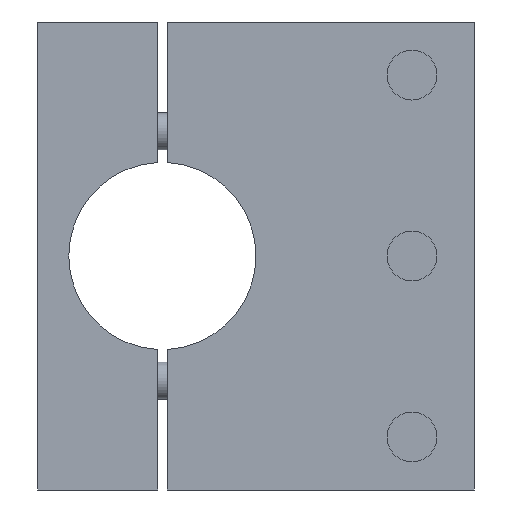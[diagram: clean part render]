
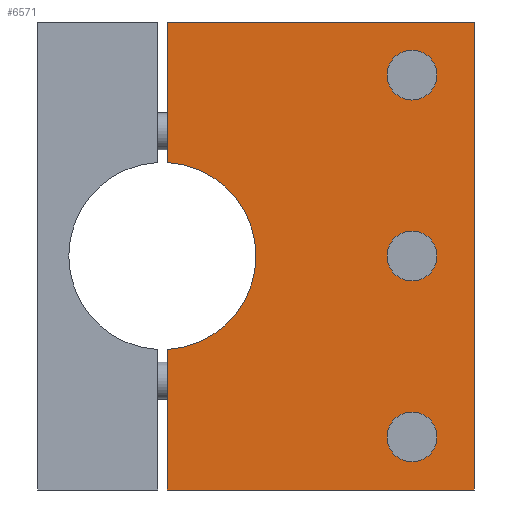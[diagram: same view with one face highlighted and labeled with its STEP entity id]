
A CAD part, front view. The second image highlights one B-rep face of the part: STEP entity #6571.
In plain terms, the highlighted planar face has unit normal (0, -1, 0).
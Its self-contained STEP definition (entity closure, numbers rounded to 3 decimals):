
#1617=CARTESIAN_POINT('',(-6.,0.0,-29.908));
#1618=VERTEX_POINT('',#1617);
#1619=CARTESIAN_POINT('',(-10.,0.0,-29.908));
#1620=DIRECTION('',(0.0,1.0,0.0));
#1621=DIRECTION('',(1.0,0.0,0.0));
#1622=AXIS2_PLACEMENT_3D('',#1619,#1620,#1621);
#1623=CIRCLE('',#1622,4.0);
#1624=EDGE_CURVE('',#1618,#1618,#1623,.T.);
#1634=CARTESIAN_POINT('',(-6.,0.0,-0.908));
#1635=VERTEX_POINT('',#1634);
#1636=CARTESIAN_POINT('',(-10.,0.0,-0.908));
#1637=DIRECTION('',(0.0,1.0,0.0));
#1638=DIRECTION('',(1.0,0.0,0.0));
#1639=AXIS2_PLACEMENT_3D('',#1636,#1637,#1638);
#1640=CIRCLE('',#1639,4.0);
#1641=EDGE_CURVE('',#1635,#1635,#1640,.T.);
#1651=CARTESIAN_POINT('',(-6.,0.0,28.092));
#1652=VERTEX_POINT('',#1651);
#1653=CARTESIAN_POINT('',(-10.,0.0,28.092));
#1654=DIRECTION('',(0.0,1.0,0.0));
#1655=DIRECTION('',(1.0,0.0,0.0));
#1656=AXIS2_PLACEMENT_3D('',#1653,#1654,#1655);
#1657=CIRCLE('',#1656,4.0);
#1658=EDGE_CURVE('',#1652,#1652,#1657,.T.);
#5855=CARTESIAN_POINT('',(-49.25,0.0,36.592));
#5856=VERTEX_POINT('',#5855);
#5863=CARTESIAN_POINT('',(0.0,0.0,36.592));
#5864=VERTEX_POINT('',#5863);
#5865=CARTESIAN_POINT('',(-49.25,0.0,36.592));
#5866=DIRECTION('',(1.0,0.0,0.0));
#5867=VECTOR('',#5866,49.25);
#5868=LINE('',#5865,#5867);
#5869=EDGE_CURVE('',#5856,#5864,#5868,.T.);
#6439=CARTESIAN_POINT('',(0.,0.0,-38.408));
#6440=VERTEX_POINT('',#6439);
#6441=CARTESIAN_POINT('',(0.0,0.0,36.592));
#6442=DIRECTION('',(0.0,0.0,-1.0));
#6443=VECTOR('',#6442,75.0);
#6444=LINE('',#6441,#6443);
#6445=EDGE_CURVE('',#5864,#6440,#6444,.T.);
#6522=CARTESIAN_POINT('',(-35.,0.0,-0.908));
#6523=DIRECTION('',(0.0,1.0,0.0));
#6524=DIRECTION('',(0.0,0.0,1.0));
#6525=AXIS2_PLACEMENT_3D('',#6522,#6523,#6524);
#6526=PLANE('',#6525);
#6527=CARTESIAN_POINT('',(-49.25,0.0,-15.889));
#6528=VERTEX_POINT('',#6527);
#6529=CARTESIAN_POINT('',(-49.25,0.0,-38.408));
#6530=VERTEX_POINT('',#6529);
#6531=CARTESIAN_POINT('',(-49.25,0.0,-15.889));
#6532=DIRECTION('',(0.0,0.0,-1.0));
#6533=VECTOR('',#6532,22.519);
#6534=LINE('',#6531,#6533);
#6535=EDGE_CURVE('',#6528,#6530,#6534,.T.);
#6536=ORIENTED_EDGE('',*,*,#6535,.T.);
#6537=CARTESIAN_POINT('',(0.,0.0,-38.408));
#6538=DIRECTION('',(-1.0,0.0,0.0));
#6539=VECTOR('',#6538,49.25);
#6540=LINE('',#6537,#6539);
#6541=EDGE_CURVE('',#6440,#6530,#6540,.T.);
#6542=ORIENTED_EDGE('',*,*,#6541,.F.);
#6543=ORIENTED_EDGE('',*,*,#6445,.F.);
#6544=ORIENTED_EDGE('',*,*,#5869,.F.);
#6545=CARTESIAN_POINT('',(-49.25,0.0,14.074));
#6546=VERTEX_POINT('',#6545);
#6547=CARTESIAN_POINT('',(-49.25,0.0,36.592));
#6548=DIRECTION('',(0.0,0.0,-1.0));
#6549=VECTOR('',#6548,22.519);
#6550=LINE('',#6547,#6549);
#6551=EDGE_CURVE('',#5856,#6546,#6550,.T.);
#6552=ORIENTED_EDGE('',*,*,#6551,.T.);
#6553=CARTESIAN_POINT('',(-50.,0.0,-0.908));
#6554=DIRECTION('',(0.0,1.0,0.0));
#6555=DIRECTION('',(0.05,0.0,-0.999));
#6556=AXIS2_PLACEMENT_3D('',#6553,#6554,#6555);
#6557=CIRCLE('',#6556,15.);
#6558=EDGE_CURVE('',#6546,#6528,#6557,.T.);
#6559=ORIENTED_EDGE('',*,*,#6558,.T.);
#6560=EDGE_LOOP('',(#6536,#6542,#6543,#6544,#6552,#6559));
#6561=FACE_OUTER_BOUND('',#6560,.T.);
#6562=ORIENTED_EDGE('',*,*,#1641,.T.);
#6563=EDGE_LOOP('',(#6562));
#6564=FACE_BOUND('',#6563,.T.);
#6565=ORIENTED_EDGE('',*,*,#1658,.T.);
#6566=EDGE_LOOP('',(#6565));
#6567=FACE_BOUND('',#6566,.T.);
#6568=ORIENTED_EDGE('',*,*,#1624,.T.);
#6569=EDGE_LOOP('',(#6568));
#6570=FACE_BOUND('',#6569,.T.);
#6571=ADVANCED_FACE('',(#6561,#6564,#6567,#6570),#6526,.F.);
